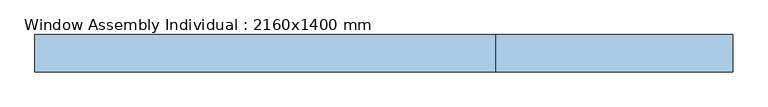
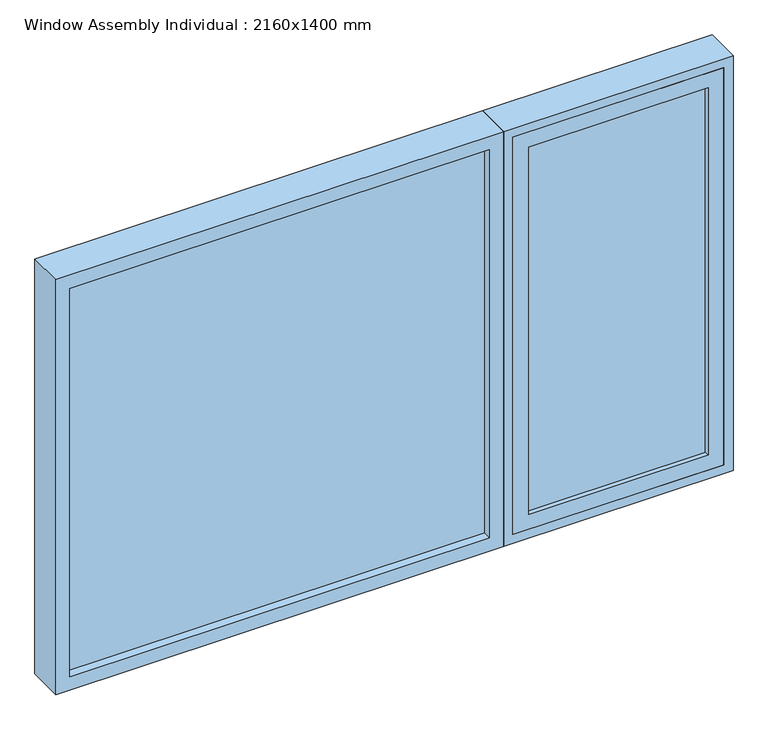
"""IFC4 building model written with IfcOpenShell, lengths in millimetres: window geometry, Window Assembly Individual : 2160x1400 mm."""

from ifc_helpers import new_model, si_unit, frame, origin, place, context, project, spatial, polyline, outline, extrude, faceted_brep, source, transform, mapped, element, save


def window_assembly_individual_2160x1400_mm_9c06a6f2(model_context):
    return source(origin(), model_context, "Body", "SolidModel", [
        extrude(outline(polyline([(2170.0, 378.0), (830.0, 378.0), (830.0, 1050.0), (2170.0, 1050.0), (2170.0, 378.0)]), holes=[polyline([(880.0, 428.0), (2120.0, 428.0), (2120.0, 1000.0), (880.0, 1000.0), (880.0, 428.0)])]), frame((0.0, -190.0, 0.0), z_axis=(0.0, 1.0, 0.0), x_axis=(0.0, 0.0, 1.0)), (0.0, 0.0, 1.0), 50.0),
        extrude(outline(polyline([(1000.0, -155.0), (1000.0, -175.0), (428.0, -175.0), (428.0, -155.0), (1000.0, -155.0)])), frame((0.0, 0.0, 880.0), z_axis=(0.0, 0.0, 1.0), x_axis=(1.0, 0.0, 0.0)), (0.0, 0.0, 1.0), 1240.0),
        faceted_brep([(1035.0, -75.0, 2155.0), (1035.0, -75.0, 845.0), (1035.0, -140.0, 845.0), (1035.0, -140.0, 2155.0), (1050.0, -140.0, 830.0), (1050.0, -140.0, 2170.0), (378.0, -140.0, 2170.0), (378.0, -140.0, 830.0), (393.0, -140.0, 845.0), (393.0, -140.0, 2155.0), (393.0, -75.0, 845.0), (1080.0, -75.0, 2200.0), (1080.0, -75.0, 800.0), (348.0, -75.0, 800.0), (348.0, -75.0, 2200.0), (393.0, -75.0, 2155.0), (1080.0, -190.0, 2200.0), (1080.0, -190.0, 800.0), (348.0, -190.0, 800.0), (348.0, -190.0, 2200.0), (1050.0, -190.0, 2170.0), (1050.0, -190.0, 830.0), (378.0, -190.0, 830.0), (378.0, -190.0, 2170.0)], [[[0, 1, 2, 3]], [[4, 5, 6, 7], [3, 2, 8, 9]], [[1, 10, 8, 2]], [[11, 12, 13, 14], [1, 0, 15, 10]], [[16, 17, 12, 11]], [[17, 18, 13, 12]], [[17, 16, 19, 18], [20, 21, 22, 23]], [[10, 15, 9, 8]], [[18, 19, 14, 13]], [[7, 6, 23, 22]], [[4, 7, 22, 21]], [[5, 4, 21, 20]], [[15, 0, 3, 9]], [[19, 16, 11, 14]], [[6, 5, 20, 23]]]),
        extrude(outline(polyline([(303.0, -140.0), (303.0, -162.0), (-1035.0, -162.0), (-1035.0, -140.0), (303.0, -140.0)])), frame((0.0, 0.0, 845.0), z_axis=(0.0, 0.0, 1.0), x_axis=(1.0, 0.0, 0.0)), (0.0, 0.0, 1.0), 1310.0),
        extrude(outline(polyline([(800.0, 348.0), (2200.0, 348.0), (2200.0, -1080.0), (800.0, -1080.0), (800.0, 348.0)]), holes=[polyline([(2155.0, 303.0), (845.0, 303.0), (845.0, -1035.0), (2155.0, -1035.0), (2155.0, 303.0)])]), frame((0.0, -190.0, 0.0), z_axis=(0.0, 1.0, 0.0), x_axis=(0.0, 0.0, 1.0)), (0.0, 0.0, 1.0), 115.0),
    ])


if __name__ == "__main__":
    model = new_model("IFC4")
    model_context = context("Model", 3, world=origin())
    ifc_project = project(units=[si_unit("LENGTHUNIT", "METRE", prefix="MILLI")], contexts=[model_context])
    site = spatial("IfcSite", under=ifc_project)
    building = spatial("IfcBuilding", under=site)
    placement = place(None, origin())
    window_assembly_individual_2160x1400_mm_shape = window_assembly_individual_2160x1400_mm_9c06a6f2(model_context)
    element("IfcWindow", 1, ObjectType="Window Assembly Individual : 2160x1400 mm", at=placement, inside=building, context=model_context, shape_type="MappedRepresentation", body=[
        mapped(window_assembly_individual_2160x1400_mm_shape, transform((0.0, 0.0, 0.0), x_axis=(1.0, 0.0, 0.0), y_axis=(0.0, 1.0, 0.0), z_axis=(0.0, 0.0, 1.0))),
    ])
    save(model, "model.ifc")
